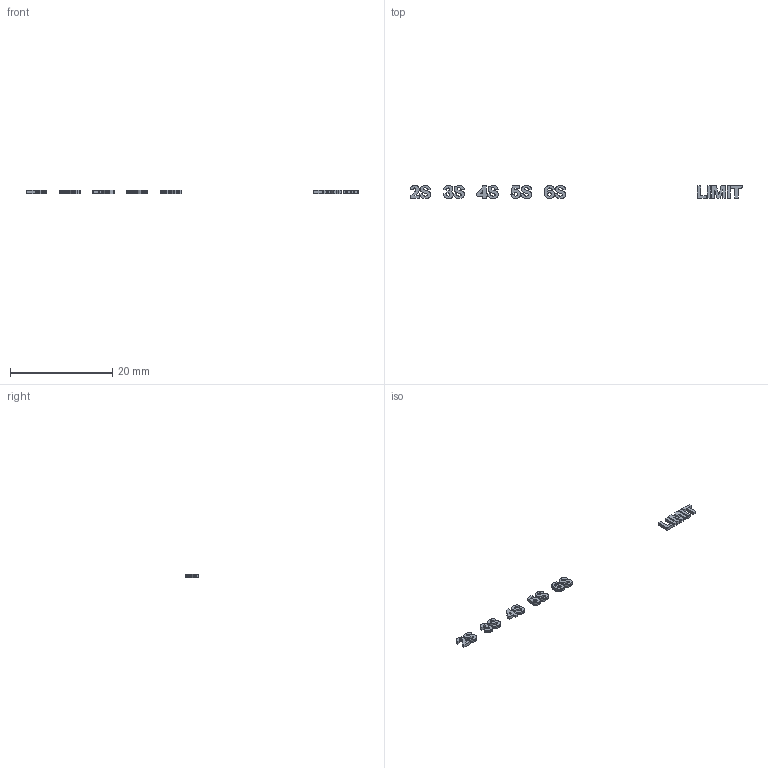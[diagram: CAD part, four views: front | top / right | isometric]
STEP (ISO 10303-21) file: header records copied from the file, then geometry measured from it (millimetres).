
FILE_DESCRIPTION(('Open CASCADE Model'),'2;1');
FILE_NAME('Open CASCADE Shape Model','2026-10-14T06:59:41',('Author'),( 'Open CASCADE'),'Open CASCADE STEP processor 7.9','Open CASCADE 7.9' ,'Unknown');
FILE_SCHEMA(('AUTOMOTIVE_DESIGN { 1 0 10303 214 1 1 1 1 }'));
Length unit declared in the file: millimetre
Products named in the file (16): Open CASCADE STEP translator 7.9 6; Open CASCADE STEP translator 7.9 6.1; Open CASCADE STEP translator 7.9 6.2; Open CASCADE STEP translator 7.9 6.3; Open CASCADE STEP translator 7.9 6.4; Open CASCADE STEP translator 7.9 6.5; Open CASCADE STEP translator 7.9 6.6; Open CASCADE STEP translator 7.9 6.7; Open CASCADE STEP translator 7.9 6.8; Open CASCADE STEP translator 7.9 6.9; Open CASCADE STEP translator 7.9 6.10; Open CASCADE STEP translator 7.9 6.11; Open CASCADE STEP translator 7.9 6.12; Open CASCADE STEP translator 7.9 6.13; Open CASCADE STEP translator 7.9 6.14; Open CASCADE STEP translator 7.9 6.15
Assembly tree (15 placements, depth 2):
  Open CASCADE STEP translator 7.9 6
    Open CASCADE STEP translator 7.9 6.1
    Open CASCADE STEP translator 7.9 6.2
    Open CASCADE STEP translator 7.9 6.3
    Open CASCADE STEP translator 7.9 6.4
    Open CASCADE STEP translator 7.9 6.5
    Open CASCADE STEP translator 7.9 6.6
    Open CASCADE STEP translator 7.9 6.7
    Open CASCADE STEP translator 7.9 6.8
    Open CASCADE STEP translator 7.9 6.9
    Open CASCADE STEP translator 7.9 6.10
    Open CASCADE STEP translator 7.9 6.11
    Open CASCADE STEP translator 7.9 6.12
    Open CASCADE STEP translator 7.9 6.13
    Open CASCADE STEP translator 7.9 6.14
    Open CASCADE STEP translator 7.9 6.15
Bounding box: 65.07 x 2.57 x 0.61 mm (x, y, z)
Volume: 27.3 mm3; surface area: 194.6 mm2
Topology: 15 solids, 15 shells, 1005 faces, 2925 edges, 1950 vertices
Faces by surface type: plane 1005
Entity records: 70764 total; most frequent: CARTESIAN_POINT 11746, DIRECTION 10817, LINE 8775, VECTOR 8775, ORIENTED_EDGE 5850, PCURVE 5850, DEFINITIONAL_REPRESENTATION 5850, EDGE_CURVE 2925
